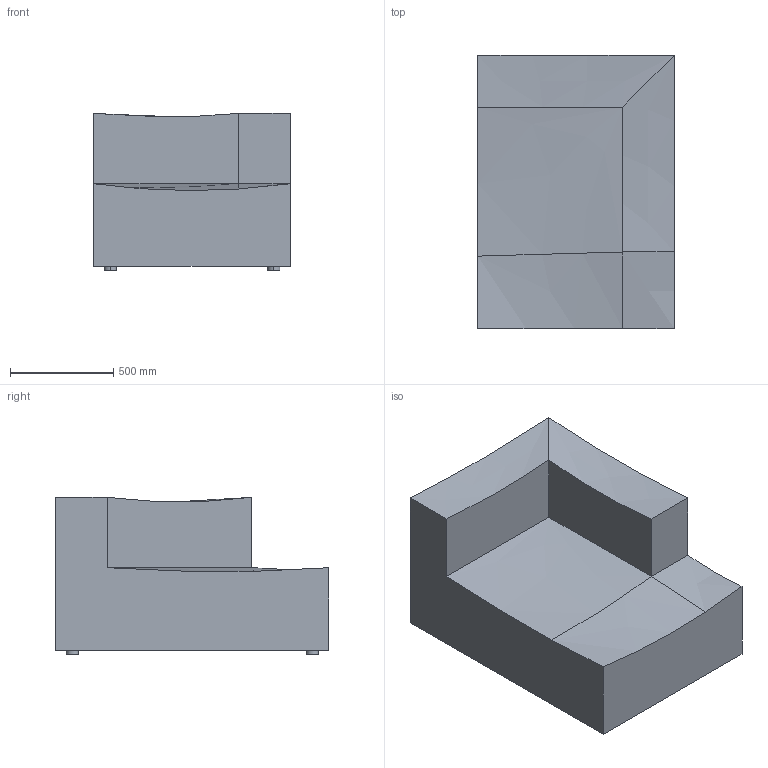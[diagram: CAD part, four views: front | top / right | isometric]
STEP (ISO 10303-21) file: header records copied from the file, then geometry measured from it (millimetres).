
FILE_DESCRIPTION(/* description */ (''),/* implementation_level */ '2;1');
FILE_NAME(/* name */ 'Catena Chaise Longue - Small - Right - S601',/* time_stamp */ '2022-06-03T16:26:43+02:00',/* author */ (''),/* organization */ (''),/* preprocessor_version */ 'ST-DEVELOPER v16.5',/* originating_system */ 'Rhino 7.18',/* authorisation */ '');
FILE_SCHEMA (('CONFIG_CONTROL_DESIGN'));
Length unit declared in the file: millimetre
Products named in the file (1): Document
Bounding box: 950 x 1320 x 760 mm (x, y, z)
Volume: 625128042.4 mm3; surface area: 5578584.3 mm2
Topology: 5 solids, 5 shells, 29 faces, 53 edges, 34 vertices
Faces by surface type: plane 16, cylinder 8, bspline 5
Entity records: 752 total; most frequent: CARTESIAN_POINT 266, ORIENTED_EDGE 106, EDGE_CURVE 53, VERTEX_POINT 34, ADVANCED_FACE 29, FACE_OUTER_BOUND 29, EDGE_LOOP 29, B_SPLINE_CURVE_WITH_KNOTS 29
